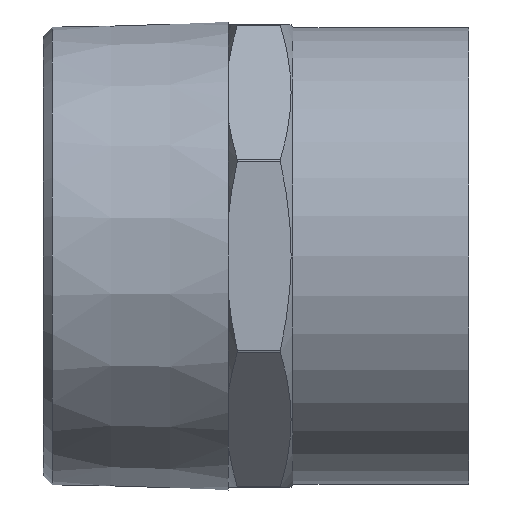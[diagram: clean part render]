
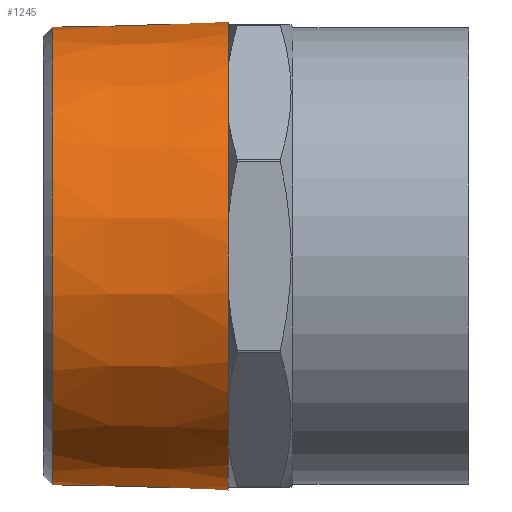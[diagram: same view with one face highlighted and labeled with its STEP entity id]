
A CAD part, front view. The second image highlights one B-rep face of the part: STEP entity #1245.
In plain terms, the highlighted conical face has half-angle 1.79 degrees and reference radius 37.514 mm.
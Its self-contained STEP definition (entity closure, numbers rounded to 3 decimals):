
#73=CARTESIAN_POINT('',(30.0,37.5,-6.035));
#74=VERTEX_POINT('',#73);
#75=CARTESIAN_POINT('',(30.0,37.5,6.035));
#76=VERTEX_POINT('',#75);
#77=CARTESIAN_POINT('',(30.0,0.0,0.0));
#78=DIRECTION('',(1.0,0.0,0.0));
#79=DIRECTION('',(0.0,1.0,0.0));
#80=AXIS2_PLACEMENT_3D('',#77,#78,#79);
#81=CIRCLE('',#80,37.982);
#82=EDGE_CURVE('',#74,#76,#81,.T.);
#98=CARTESIAN_POINT('',(30.0,22.249,-30.784));
#99=VERTEX_POINT('',#98);
#100=CARTESIAN_POINT('',(30.0,30.784,-22.249));
#101=VERTEX_POINT('',#100);
#102=CARTESIAN_POINT('',(30.0,0.0,0.0));
#103=DIRECTION('',(1.0,0.0,0.0));
#104=DIRECTION('',(0.0,1.0,0.0));
#105=AXIS2_PLACEMENT_3D('',#102,#103,#104);
#106=CIRCLE('',#105,37.982);
#107=EDGE_CURVE('',#99,#101,#106,.T.);
#123=CARTESIAN_POINT('',(30.0,-6.035,-37.5));
#124=VERTEX_POINT('',#123);
#125=CARTESIAN_POINT('',(30.0,6.035,-37.5));
#126=VERTEX_POINT('',#125);
#127=CARTESIAN_POINT('',(30.0,0.0,0.0));
#128=DIRECTION('',(1.0,0.0,0.0));
#129=DIRECTION('',(0.0,1.0,0.0));
#130=AXIS2_PLACEMENT_3D('',#127,#128,#129);
#131=CIRCLE('',#130,37.982);
#132=EDGE_CURVE('',#124,#126,#131,.T.);
#148=CARTESIAN_POINT('',(30.0,-30.784,-22.249));
#149=VERTEX_POINT('',#148);
#150=CARTESIAN_POINT('',(30.0,-22.249,-30.784));
#151=VERTEX_POINT('',#150);
#152=CARTESIAN_POINT('',(30.0,0.0,0.0));
#153=DIRECTION('',(1.0,0.0,0.0));
#154=DIRECTION('',(0.0,1.0,0.0));
#155=AXIS2_PLACEMENT_3D('',#152,#153,#154);
#156=CIRCLE('',#155,37.982);
#157=EDGE_CURVE('',#149,#151,#156,.T.);
#173=CARTESIAN_POINT('',(30.0,-37.5,6.035));
#174=VERTEX_POINT('',#173);
#175=CARTESIAN_POINT('',(30.0,-37.5,-6.035));
#176=VERTEX_POINT('',#175);
#177=CARTESIAN_POINT('',(30.0,0.0,0.0));
#178=DIRECTION('',(1.0,0.0,0.0));
#179=DIRECTION('',(0.0,1.0,0.0));
#180=AXIS2_PLACEMENT_3D('',#177,#178,#179);
#181=CIRCLE('',#180,37.982);
#182=EDGE_CURVE('',#174,#176,#181,.T.);
#198=CARTESIAN_POINT('',(30.0,-22.249,30.784));
#199=VERTEX_POINT('',#198);
#200=CARTESIAN_POINT('',(30.0,-30.784,22.249));
#201=VERTEX_POINT('',#200);
#202=CARTESIAN_POINT('',(30.0,0.0,0.0));
#203=DIRECTION('',(1.0,0.0,0.0));
#204=DIRECTION('',(0.0,1.0,0.0));
#205=AXIS2_PLACEMENT_3D('',#202,#203,#204);
#206=CIRCLE('',#205,37.982);
#207=EDGE_CURVE('',#199,#201,#206,.T.);
#223=CARTESIAN_POINT('',(30.0,30.784,22.249));
#224=VERTEX_POINT('',#223);
#225=CARTESIAN_POINT('',(30.0,22.249,30.784));
#226=VERTEX_POINT('',#225);
#227=CARTESIAN_POINT('',(30.0,0.0,0.0));
#228=DIRECTION('',(1.0,0.0,0.0));
#229=DIRECTION('',(0.0,1.0,0.0));
#230=AXIS2_PLACEMENT_3D('',#227,#228,#229);
#231=CIRCLE('',#230,37.982);
#232=EDGE_CURVE('',#224,#226,#231,.T.);
#734=CARTESIAN_POINT('',(30.0,-6.035,37.5));
#735=VERTEX_POINT('',#734);
#749=CARTESIAN_POINT('',(30.0,0.0,0.0));
#750=DIRECTION('',(1.0,0.0,0.0));
#751=DIRECTION('',(0.0,1.0,0.0));
#752=AXIS2_PLACEMENT_3D('',#749,#750,#751);
#753=CIRCLE('',#752,37.982);
#754=EDGE_CURVE('',#735,#199,#753,.T.);
#773=CARTESIAN_POINT('',(30.0,0.0,0.0));
#774=DIRECTION('',(1.0,0.0,0.0));
#775=DIRECTION('',(0.0,1.0,0.0));
#776=AXIS2_PLACEMENT_3D('',#773,#774,#775);
#777=CIRCLE('',#776,37.982);
#778=EDGE_CURVE('',#201,#174,#777,.T.);
#797=CARTESIAN_POINT('',(30.0,0.0,0.0));
#798=DIRECTION('',(1.0,0.0,0.0));
#799=DIRECTION('',(0.0,1.0,0.0));
#800=AXIS2_PLACEMENT_3D('',#797,#798,#799);
#801=CIRCLE('',#800,37.982);
#802=EDGE_CURVE('',#176,#149,#801,.T.);
#821=CARTESIAN_POINT('',(30.0,0.0,0.0));
#822=DIRECTION('',(1.0,0.0,0.0));
#823=DIRECTION('',(0.0,1.0,0.0));
#824=AXIS2_PLACEMENT_3D('',#821,#822,#823);
#825=CIRCLE('',#824,37.982);
#826=EDGE_CURVE('',#151,#124,#825,.T.);
#845=CARTESIAN_POINT('',(30.0,0.0,0.0));
#846=DIRECTION('',(1.0,0.0,0.0));
#847=DIRECTION('',(0.0,1.0,0.0));
#848=AXIS2_PLACEMENT_3D('',#845,#846,#847);
#849=CIRCLE('',#848,37.982);
#850=EDGE_CURVE('',#126,#99,#849,.T.);
#869=CARTESIAN_POINT('',(30.0,0.0,0.0));
#870=DIRECTION('',(1.0,0.0,0.0));
#871=DIRECTION('',(0.0,1.0,0.0));
#872=AXIS2_PLACEMENT_3D('',#869,#870,#871);
#873=CIRCLE('',#872,37.982);
#874=EDGE_CURVE('',#101,#74,#873,.T.);
#893=CARTESIAN_POINT('',(30.0,0.0,0.0));
#894=DIRECTION('',(1.0,0.0,0.0));
#895=DIRECTION('',(0.0,1.0,0.0));
#896=AXIS2_PLACEMENT_3D('',#893,#894,#895);
#897=CIRCLE('',#896,37.982);
#898=EDGE_CURVE('',#76,#224,#897,.T.);
#1041=CARTESIAN_POINT('',(30.0,6.035,37.5));
#1042=VERTEX_POINT('',#1041);
#1095=CARTESIAN_POINT('',(30.0,0.0,0.0));
#1096=DIRECTION('',(1.0,0.0,0.0));
#1097=DIRECTION('',(0.0,1.0,0.0));
#1098=AXIS2_PLACEMENT_3D('',#1095,#1096,#1097);
#1099=CIRCLE('',#1098,37.982);
#1100=EDGE_CURVE('',#1042,#735,#1099,.T.);
#1181=CARTESIAN_POINT('',(1.499,37.092,0.));
#1182=VERTEX_POINT('',#1181);
#1183=CARTESIAN_POINT('',(1.499,0.0,0.));
#1184=DIRECTION('',(-1.0,0.0,0.0));
#1185=DIRECTION('',(0.0,-1.0,0.0));
#1186=AXIS2_PLACEMENT_3D('',#1183,#1184,#1185);
#1187=CIRCLE('',#1186,37.092);
#1188=EDGE_CURVE('',#1182,#1182,#1187,.T.);
#1213=CARTESIAN_POINT('',(15.0,0.0,0.0));
#1214=DIRECTION('',(1.0,0.0,0.0));
#1215=DIRECTION('',(0.0,1.0,0.0));
#1216=AXIS2_PLACEMENT_3D('',#1213,#1214,#1215);
#1217=CONICAL_SURFACE('',#1216,37.514,1.79);
#1218=ORIENTED_EDGE('',*,*,#754,.F.);
#1219=ORIENTED_EDGE('',*,*,#1100,.F.);
#1220=CARTESIAN_POINT('',(30.0,0.0,0.0));
#1221=DIRECTION('',(1.0,0.0,0.0));
#1222=DIRECTION('',(0.0,1.0,0.0));
#1223=AXIS2_PLACEMENT_3D('',#1220,#1221,#1222);
#1224=CIRCLE('',#1223,37.982);
#1225=EDGE_CURVE('',#226,#1042,#1224,.T.);
#1226=ORIENTED_EDGE('',*,*,#1225,.F.);
#1227=ORIENTED_EDGE('',*,*,#232,.F.);
#1228=ORIENTED_EDGE('',*,*,#898,.F.);
#1229=ORIENTED_EDGE('',*,*,#82,.F.);
#1230=ORIENTED_EDGE('',*,*,#874,.F.);
#1231=ORIENTED_EDGE('',*,*,#107,.F.);
#1232=ORIENTED_EDGE('',*,*,#850,.F.);
#1233=ORIENTED_EDGE('',*,*,#132,.F.);
#1234=ORIENTED_EDGE('',*,*,#826,.F.);
#1235=ORIENTED_EDGE('',*,*,#157,.F.);
#1236=ORIENTED_EDGE('',*,*,#802,.F.);
#1237=ORIENTED_EDGE('',*,*,#182,.F.);
#1238=ORIENTED_EDGE('',*,*,#778,.F.);
#1239=ORIENTED_EDGE('',*,*,#207,.F.);
#1240=EDGE_LOOP('',(#1218,#1219,#1226,#1227,#1228,#1229,#1230,#1231,#1232,#1233,#1234,#1235,#1236,#1237,#1238,#1239));
#1241=FACE_OUTER_BOUND('',#1240,.T.);
#1242=ORIENTED_EDGE('',*,*,#1188,.F.);
#1243=EDGE_LOOP('',(#1242));
#1244=FACE_BOUND('',#1243,.T.);
#1245=ADVANCED_FACE('',(#1241,#1244),#1217,.T.);
